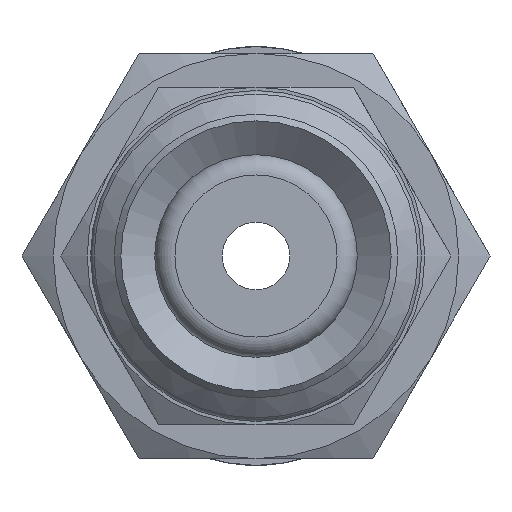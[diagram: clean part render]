
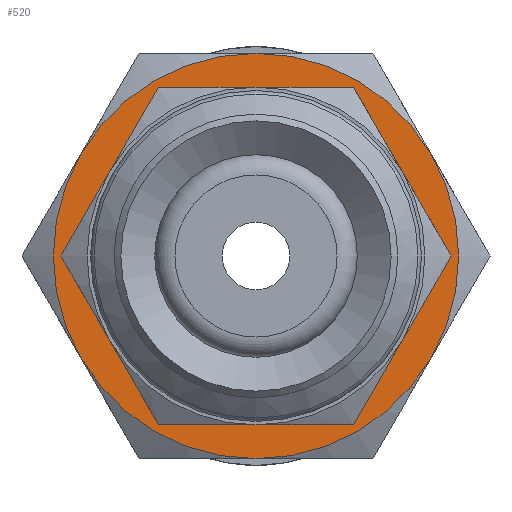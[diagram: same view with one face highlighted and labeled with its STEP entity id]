
A CAD part, front view. The second image highlights one B-rep face of the part: STEP entity #520.
In plain terms, the highlighted planar face has unit normal (0, -1, 0) as drawn and (-1, 0, 0) by its records, which use the part's own axes.
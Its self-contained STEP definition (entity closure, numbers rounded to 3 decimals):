
#520=ADVANCED_FACE('',(#754,#755),#756,.F.);
#754=FACE_BOUND('',#1118,.T.);
#755=FACE_OUTER_BOUND('',#1119,.T.);
#756=PLANE('',#1120);
#1118=EDGE_LOOP('',(#1989));
#1119=EDGE_LOOP('',(#1990,#1991,#1992,#1993,#1994,#1995));
#1120=AXIS2_PLACEMENT_3D('',#1996,#1997,#1998);
#1989=ORIENTED_EDGE('',*,*,#2627,.T.);
#1990=ORIENTED_EDGE('',*,*,#2618,.F.);
#1991=ORIENTED_EDGE('',*,*,#2589,.F.);
#1992=ORIENTED_EDGE('',*,*,#2619,.F.);
#1993=ORIENTED_EDGE('',*,*,#2604,.F.);
#1994=ORIENTED_EDGE('',*,*,#2603,.F.);
#1995=ORIENTED_EDGE('',*,*,#2617,.F.);
#1996=CARTESIAN_POINT('',(0.,0.0,0.0));
#1997=DIRECTION('',(1.0,0.0,0.0));
#1998=DIRECTION('',(0.0,1.0,0.0));
#2589=EDGE_CURVE('',#2913,#2916,#2917,.T.);
#2603=EDGE_CURVE('',#2939,#2936,#2941,.T.);
#2604=EDGE_CURVE('',#2936,#2942,#2943,.T.);
#2617=EDGE_CURVE('',#2933,#2939,#2961,.T.);
#2618=EDGE_CURVE('',#2916,#2933,#2962,.T.);
#2619=EDGE_CURVE('',#2942,#2913,#2963,.T.);
#2627=EDGE_CURVE('',#2974,#2974,#2975,.T.);
#2913=VERTEX_POINT('',#3459);
#2916=VERTEX_POINT('',#3482);
#2917=CIRCLE('',#3483,6.0);
#2933=VERTEX_POINT('',#3561);
#2936=VERTEX_POINT('',#3584);
#2939=VERTEX_POINT('',#3597);
#2941=CIRCLE('',#3609,6.0);
#2942=VERTEX_POINT('',#3610);
#2943=CIRCLE('',#3611,6.0);
#2961=CIRCLE('',#3711,6.0);
#2962=CIRCLE('',#3712,6.0);
#2963=CIRCLE('',#3713,6.0);
#2974=VERTEX_POINT('',#3744);
#2975=CIRCLE('',#3745,4.0);
#3459=CARTESIAN_POINT('',(0.,0.0,-6.0));
#3482=CARTESIAN_POINT('',(0.,5.196,-3.0));
#3483=AXIS2_PLACEMENT_3D('',#4431,#4432,#4433);
#3561=CARTESIAN_POINT('',(0.,5.196,3.0));
#3584=CARTESIAN_POINT('',(0.,-5.196,3.0));
#3597=CARTESIAN_POINT('',(0.,0.0,6.0));
#3609=AXIS2_PLACEMENT_3D('',#4439,#4440,#4441);
#3610=CARTESIAN_POINT('',(0.,-5.196,-3.0));
#3611=AXIS2_PLACEMENT_3D('',#4442,#4443,#4444);
#3711=AXIS2_PLACEMENT_3D('',#4453,#4454,#4455);
#3712=AXIS2_PLACEMENT_3D('',#4456,#4457,#4458);
#3713=AXIS2_PLACEMENT_3D('',#4459,#4460,#4461);
#3744=CARTESIAN_POINT('',(0.,0.0,-4.0));
#3745=AXIS2_PLACEMENT_3D('',#4477,#4478,#4479);
#4431=CARTESIAN_POINT('',(0.,0.0,0.0));
#4432=DIRECTION('',(1.0,0.0,0.0));
#4433=DIRECTION('',(0.0,0.0,-1.0));
#4439=CARTESIAN_POINT('',(0.,0.0,0.0));
#4440=DIRECTION('',(1.0,0.0,0.0));
#4441=DIRECTION('',(0.0,0.0,-1.0));
#4442=CARTESIAN_POINT('',(0.,0.0,0.0));
#4443=DIRECTION('',(1.0,0.0,0.0));
#4444=DIRECTION('',(0.0,0.0,-1.0));
#4453=CARTESIAN_POINT('',(0.,0.0,0.0));
#4454=DIRECTION('',(1.0,0.0,0.0));
#4455=DIRECTION('',(0.0,0.0,-1.0));
#4456=CARTESIAN_POINT('',(0.,0.0,0.0));
#4457=DIRECTION('',(1.0,0.0,0.0));
#4458=DIRECTION('',(0.0,0.0,-1.0));
#4459=CARTESIAN_POINT('',(0.,0.0,0.0));
#4460=DIRECTION('',(1.0,0.0,0.0));
#4461=DIRECTION('',(0.0,0.0,-1.0));
#4477=CARTESIAN_POINT('',(0.,0.0,0.0));
#4478=DIRECTION('',(1.0,0.0,0.0));
#4479=DIRECTION('',(0.0,0.0,-1.0));
